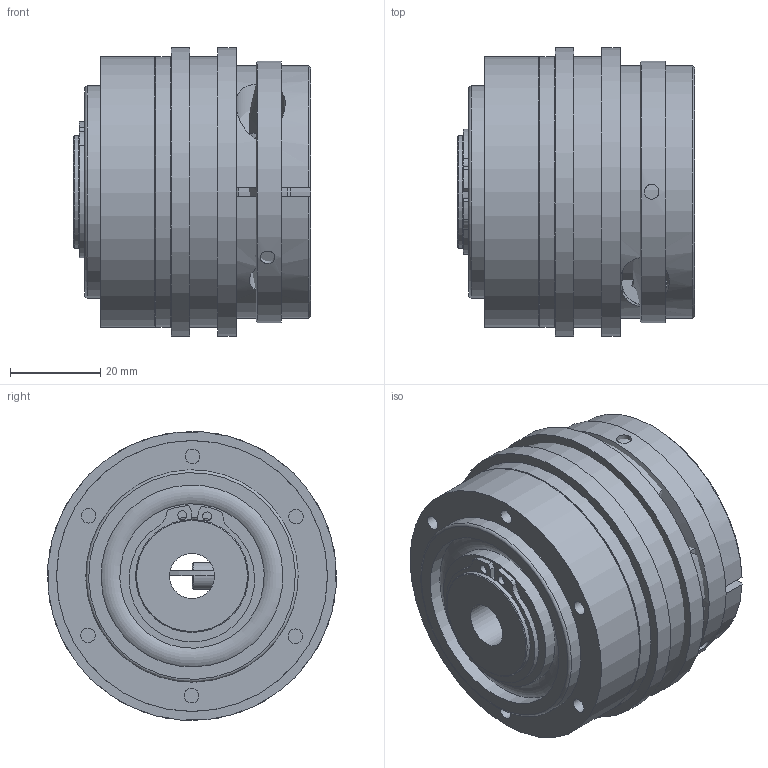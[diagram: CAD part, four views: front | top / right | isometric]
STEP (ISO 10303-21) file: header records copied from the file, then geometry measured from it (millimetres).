
FILE_DESCRIPTION( ( 'Unknown' ), '1' );
FILE_NAME( 'C:/Dokumente und Einstellungen/Sven/Desktop/hp kbk/KBK L-K-30.stp', 'Unknown', ( 'Unknown' ), ( 'Unknown' ), 'XStep 1.0', 'Unknown', ' ' );
FILE_SCHEMA( ( 'automotive_design' ) );
Length unit declared in the file: millimetre
Products named in the file (13): Assem1; Assem2; Assem3; Zylinderschraube DIN 912_0_0; ball_bearing_-_6005_0_01; ball_bearing_-_6005_0_02; ball_bearing_-_6005_0_03; Stellring 30; Druckring 30; a_25; L-K-30 Grundkörper; Flansch L30; Klemmnabe 30
Bounding box: 52.5 x 64 x 64 mm (x, y, z)
Surface area: 113908 mm2
Topology: 24 solids, 24 shells, 276 faces, 592 edges, 386 vertices
Faces by surface type: plane 116, cylinder 108, cone 27, torus 25
Full cylindrical faces by diameter (mm): 2 x4, 3.242 x18, 4.917 x2, 6 x3, 6.4 x2, 10 x5, 11 x2, 23.9 x2, 25 x7, 30 x2, 32 x6, 34 x2, 38 x6, 40 x2, 40.3 x6, 47 x5, 52 x2, 58 x2, 60 x4, 64 x2
Entity records: 3744 total; most frequent: CARTESIAN_POINT 994, DIRECTION 548, ORIENTED_EDGE 390, AXIS2_PLACEMENT_3D 245, EDGE_LOOP 216, EDGE_CURVE 195, FACE_OUTER_BOUND 168, VERTEX_POINT 159
